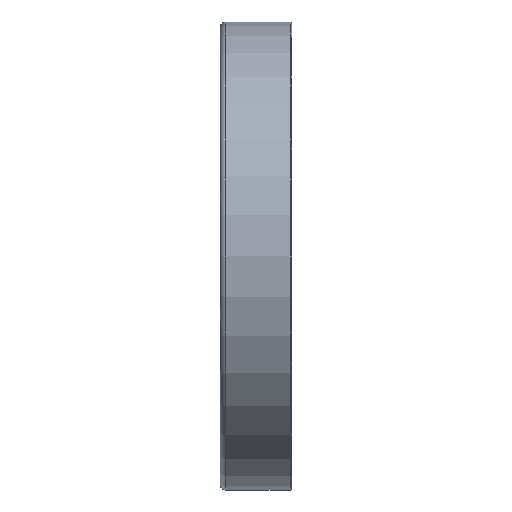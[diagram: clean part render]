
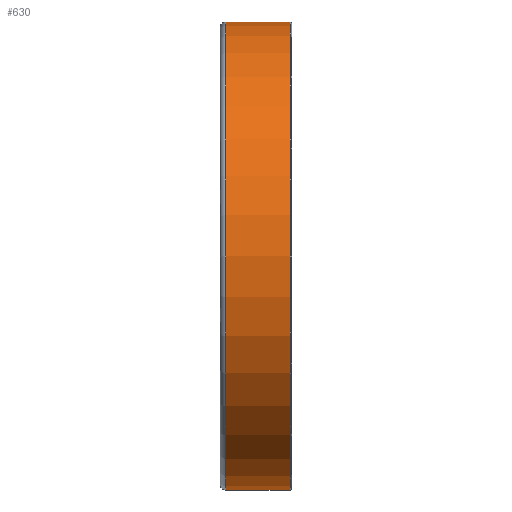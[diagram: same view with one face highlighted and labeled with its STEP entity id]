
A CAD part, front view. The second image highlights one B-rep face of the part: STEP entity #630.
In plain terms, the highlighted cylindrical face has radius 42.5 mm (diameter 85 mm), a full revolution.
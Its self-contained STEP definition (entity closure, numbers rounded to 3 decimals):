
#182=CYLINDRICAL_SURFACE('',#1002,42.5);
#302=EDGE_LOOP('',(#434));
#303=EDGE_LOOP('',(#435));
#434=ORIENTED_EDGE('',*,*,#508,.F.);
#435=ORIENTED_EDGE('',*,*,#506,.T.);
#506=EDGE_CURVE('',#919,#919,#526,.T.);
#508=EDGE_CURVE('',#921,#921,#528,.T.);
#526=CIRCLE('',#998,42.5);
#528=CIRCLE('',#1001,42.5);
#630=ADVANCED_FACE('',(#801,#802),#182,.T.);
#801=FACE_BOUND('',#302,.T.);
#802=FACE_BOUND('',#303,.T.);
#919=VERTEX_POINT('',#3994);
#921=VERTEX_POINT('',#3999);
#998=AXIS2_PLACEMENT_3D('',#3993,#1141,#1142);
#1001=AXIS2_PLACEMENT_3D('',#3998,#1147,#1148);
#1002=AXIS2_PLACEMENT_3D('',#4000,#1149,#1150);
#1141=DIRECTION('',(1.,0.,0.));
#1142=DIRECTION('',(0.,0.,-1.));
#1147=DIRECTION('',(1.,0.,0.));
#1148=DIRECTION('',(0.,0.,-1.));
#1149=DIRECTION('',(1.,0.,0.));
#1150=DIRECTION('',(0.,0.,-1.));
#3993=CARTESIAN_POINT('',(-5.5,0.,0.));
#3994=CARTESIAN_POINT('',(-5.5,0.,-42.5));
#3998=CARTESIAN_POINT('',(6.2,0.,0.));
#3999=CARTESIAN_POINT('',(6.2,0.,-42.5));
#4000=CARTESIAN_POINT('',(-5.5,0.,0.));
